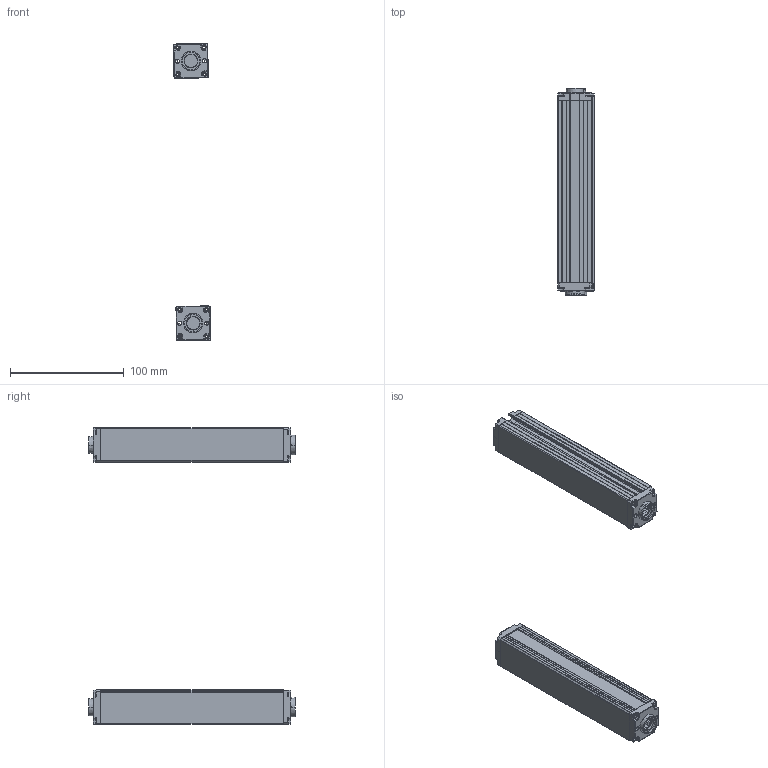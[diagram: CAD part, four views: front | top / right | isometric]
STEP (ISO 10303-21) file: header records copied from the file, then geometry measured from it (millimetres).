
FILE_DESCRIPTION (( 'STEP AP203' ), '1' );
FILE_NAME ('ZDA1410-160.STEP', '2022-08-30T03:31:58', ( 'Windows 蚚誧' ), ( 'Organization' ), 'SwSTEP 2.0', 'SolidWorks 2020', '' );
FILE_SCHEMA (( 'CONFIG_CONTROL_DESIGN' ));
Length unit declared in the file: millimetre
Products named in the file (5): 錨璃8 - 萵掛 (2); 錨璃10; ZDA1410-160; 錨璃1; 錨璃8
Assembly tree (8 placements, depth 2):
  ZDA1410-160
    錨璃1  x2
    錨璃8  x2
    錨璃8 - 萵掛 (2)  x2
    錨璃10  x2
Bounding box: 32.36 x 181.4 x 260.35 mm (x, y, z)
Volume: 111474 mm3; surface area: 120824.1 mm2
Topology: 8 solids, 8 shells, 1032 faces, 2690 edges, 1668 vertices
Faces by surface type: plane 464, cylinder 310, cone 120, bspline 58, torus 48, sphere 32
Entity records: 17901 total; most frequent: CARTESIAN_POINT 4731, ORIENTED_EDGE 2666, DIRECTION 2616, EDGE_CURVE 1333, AXIS2_PLACEMENT_3D 894, VERTEX_POINT 834, LINE 828, VECTOR 828
